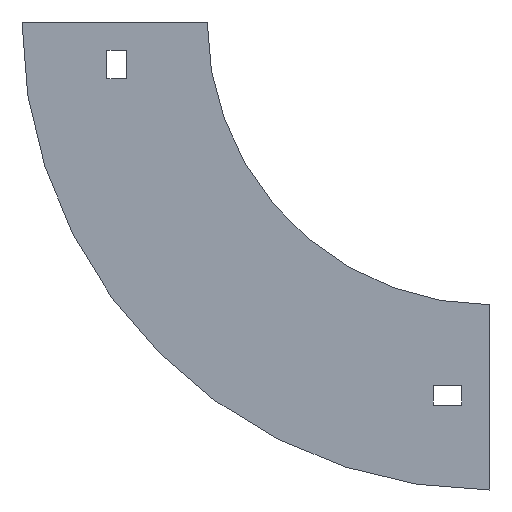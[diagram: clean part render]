
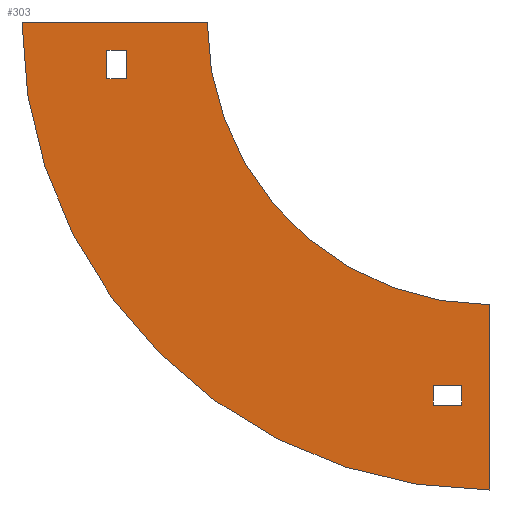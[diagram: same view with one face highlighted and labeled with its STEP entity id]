
A CAD part, left-side view. The second image highlights one B-rep face of the part: STEP entity #303.
In plain terms, the highlighted planar face has unit normal (-1, 0, 0).
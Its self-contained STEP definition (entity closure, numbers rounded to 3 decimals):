
#2 = DIRECTION ( 'NONE',  ( 0., 0., 1. ) ) ;
#7 = DIRECTION ( 'NONE',  ( 0., -1., 0. ) ) ;
#15 = DIRECTION ( 'NONE',  ( 0., 0., 1. ) ) ;
#18 = EDGE_CURVE ( 'NONE', #457, #279, #582, .T. ) ;
#32 = ORIENTED_EDGE ( 'NONE', *, *, #390, .F. ) ;
#38 = CARTESIAN_POINT ( 'NONE',  ( -52., 28.5, -10. ) ) ;
#53 = CARTESIAN_POINT ( 'NONE',  ( -52., -100., -100. ) ) ;
#54 = ORIENTED_EDGE ( 'NONE', *, *, #89, .T. ) ;
#58 = EDGE_CURVE ( 'NONE', #868, #989, #870, .T. ) ;
#60 = LINE ( 'NONE', #53, #901 ) ;
#62 = CARTESIAN_POINT ( 'NONE',  ( -52., 35.5, -10. ) ) ;
#68 = DIRECTION ( 'NONE',  ( 0., -1., 0. ) ) ;
#73 = CARTESIAN_POINT ( 'NONE',  ( -52., -90., -135.5 ) ) ;
#84 = LINE ( 'NONE', #713, #754 ) ;
#86 = VECTOR ( 'NONE', #916, 1000. ) ;
#89 = EDGE_CURVE ( 'NONE', #945, #1121, #657, .T. ) ;
#111 = EDGE_LOOP ( 'NONE', ( #693, #54, #150, #894 ) ) ;
#119 = VECTOR ( 'NONE', #15, 1000. ) ;
#147 = CARTESIAN_POINT ( 'NONE',  ( -52., 35.5, -20. ) ) ;
#150 = ORIENTED_EDGE ( 'NONE', *, *, #381, .T. ) ;
#178 = EDGE_CURVE ( 'NONE', #206, #945, #430, .T. ) ;
#186 = ORIENTED_EDGE ( 'NONE', *, *, #58, .F. ) ;
#190 = CARTESIAN_POINT ( 'NONE',  ( -52., -80., -135.5 ) ) ;
#195 = ORIENTED_EDGE ( 'NONE', *, *, #444, .F. ) ;
#201 = LINE ( 'NONE', #1095, #119 ) ;
#206 = VERTEX_POINT ( 'NONE', #587 ) ;
#214 = CIRCLE ( 'NONE', #542, 100. ) ;
#279 = VERTEX_POINT ( 'NONE', #705 ) ;
#289 = VECTOR ( 'NONE', #661, 1000. ) ;
#298 = CARTESIAN_POINT ( 'NONE',  ( -52., -90., -135.5 ) ) ;
#301 = DIRECTION ( 'NONE',  ( 0., 0., 1. ) ) ;
#303 = ADVANCED_FACE ( 'NONE', ( #979, #633, #543 ), #786, .T. ) ;
#325 = CARTESIAN_POINT ( 'NONE',  ( -52., -80., -135.5 ) ) ;
#363 = VECTOR ( 'NONE', #7, 1000. ) ;
#374 = DIRECTION ( 'NONE',  ( 0., 1., 0. ) ) ;
#377 = CARTESIAN_POINT ( 'NONE',  ( -52., -100., -165.5 ) ) ;
#381 = EDGE_CURVE ( 'NONE', #1121, #498, #84, .T. ) ;
#382 = CARTESIAN_POINT ( 'NONE',  ( -52., -100., -100. ) ) ;
#390 = EDGE_CURVE ( 'NONE', #279, #1091, #973, .T. ) ;
#399 = EDGE_CURVE ( 'NONE', #989, #748, #643, .T. ) ;
#407 = VECTOR ( 'NONE', #68, 1000. ) ;
#415 = DIRECTION ( 'NONE',  ( 0., 0., -1. ) ) ;
#430 = LINE ( 'NONE', #62, #407 ) ;
#433 = CARTESIAN_POINT ( 'NONE',  ( -52., 0., 0. ) ) ;
#435 = CARTESIAN_POINT ( 'NONE',  ( -52., -100., 0. ) ) ;
#438 = EDGE_CURVE ( 'NONE', #498, #206, #201, .T. ) ;
#443 = EDGE_LOOP ( 'NONE', ( #32, #480, #610, #195 ) ) ;
#444 = EDGE_CURVE ( 'NONE', #1091, #524, #822, .T. ) ;
#457 = VERTEX_POINT ( 'NONE', #298 ) ;
#480 = ORIENTED_EDGE ( 'NONE', *, *, #18, .F. ) ;
#486 = ORIENTED_EDGE ( 'NONE', *, *, #609, .F. ) ;
#498 = VERTEX_POINT ( 'NONE', #147 ) ;
#524 = VERTEX_POINT ( 'NONE', #325 ) ;
#540 = CARTESIAN_POINT ( 'NONE',  ( -52., 28.5, -20. ) ) ;
#542 = AXIS2_PLACEMENT_3D ( 'NONE', #1130, #597, #1029 ) ;
#543 = FACE_BOUND ( 'NONE', #443, .T. ) ;
#561 = CARTESIAN_POINT ( 'NONE',  ( -52., -100., 0. ) ) ;
#571 = EDGE_CURVE ( 'NONE', #748, #853, #214, .T. ) ;
#579 = CARTESIAN_POINT ( 'NONE',  ( -52., 28.5, -10. ) ) ;
#582 = LINE ( 'NONE', #744, #614 ) ;
#587 = CARTESIAN_POINT ( 'NONE',  ( -52., 35.5, -10. ) ) ;
#597 = DIRECTION ( 'NONE',  ( -1., 0., 0. ) ) ;
#609 = EDGE_CURVE ( 'NONE', #853, #868, #60, .T. ) ;
#610 = ORIENTED_EDGE ( 'NONE', *, *, #715, .F. ) ;
#614 = VECTOR ( 'NONE', #908, 1000. ) ;
#625 = CARTESIAN_POINT ( 'NONE',  ( -52., -80., -128.5 ) ) ;
#633 = FACE_OUTER_BOUND ( 'NONE', #1051, .T. ) ;
#643 = LINE ( 'NONE', #826, #289 ) ;
#655 = CARTESIAN_POINT ( 'NONE',  ( -52., -90., -128.5 ) ) ;
#657 = LINE ( 'NONE', #38, #723 ) ;
#661 = DIRECTION ( 'NONE',  ( 0., -1., 0. ) ) ;
#666 = CARTESIAN_POINT ( 'NONE',  ( -52., 65.5, 0. ) ) ;
#670 = AXIS2_PLACEMENT_3D ( 'NONE', #561, #1104, #301 ) ;
#693 = ORIENTED_EDGE ( 'NONE', *, *, #178, .T. ) ;
#705 = CARTESIAN_POINT ( 'NONE',  ( -52., -90., -128.5 ) ) ;
#713 = CARTESIAN_POINT ( 'NONE',  ( -52., 35.5, -20. ) ) ;
#715 = EDGE_CURVE ( 'NONE', #524, #457, #807, .T. ) ;
#717 = DIRECTION ( 'NONE',  ( -1., 0., 0. ) ) ;
#723 = VECTOR ( 'NONE', #735, 1000. ) ;
#735 = DIRECTION ( 'NONE',  ( 0., 0., -1. ) ) ;
#744 = CARTESIAN_POINT ( 'NONE',  ( -52., -90., -135.5 ) ) ;
#748 = VERTEX_POINT ( 'NONE', #433 ) ;
#754 = VECTOR ( 'NONE', #1062, 1000. ) ;
#755 = ORIENTED_EDGE ( 'NONE', *, *, #399, .F. ) ;
#786 = PLANE ( 'NONE',  #1032 ) ;
#793 = VECTOR ( 'NONE', #374, 1000. ) ;
#807 = LINE ( 'NONE', #73, #363 ) ;
#822 = LINE ( 'NONE', #190, #86 ) ;
#826 = CARTESIAN_POINT ( 'NONE',  ( -52., 65.5, 0. ) ) ;
#853 = VERTEX_POINT ( 'NONE', #382 ) ;
#868 = VERTEX_POINT ( 'NONE', #377 ) ;
#870 = CIRCLE ( 'NONE', #670, 165.5 ) ;
#894 = ORIENTED_EDGE ( 'NONE', *, *, #438, .T. ) ;
#901 = VECTOR ( 'NONE', #415, 1000. ) ;
#908 = DIRECTION ( 'NONE',  ( 0., 0., 1. ) ) ;
#916 = DIRECTION ( 'NONE',  ( 0., 0., -1. ) ) ;
#945 = VERTEX_POINT ( 'NONE', #579 ) ;
#973 = LINE ( 'NONE', #655, #793 ) ;
#979 = FACE_BOUND ( 'NONE', #111, .T. ) ;
#980 = ORIENTED_EDGE ( 'NONE', *, *, #571, .F. ) ;
#989 = VERTEX_POINT ( 'NONE', #666 ) ;
#1029 = DIRECTION ( 'NONE',  ( 0., 0., 1. ) ) ;
#1032 = AXIS2_PLACEMENT_3D ( 'NONE', #435, #717, #2 ) ;
#1051 = EDGE_LOOP ( 'NONE', ( #980, #755, #186, #486 ) ) ;
#1062 = DIRECTION ( 'NONE',  ( 0., 1., 0. ) ) ;
#1091 = VERTEX_POINT ( 'NONE', #625 ) ;
#1095 = CARTESIAN_POINT ( 'NONE',  ( -52., 35.5, -10. ) ) ;
#1104 = DIRECTION ( 'NONE',  ( 1., 0., 0. ) ) ;
#1121 = VERTEX_POINT ( 'NONE', #540 ) ;
#1130 = CARTESIAN_POINT ( 'NONE',  ( -52., -100., 0. ) ) ;
